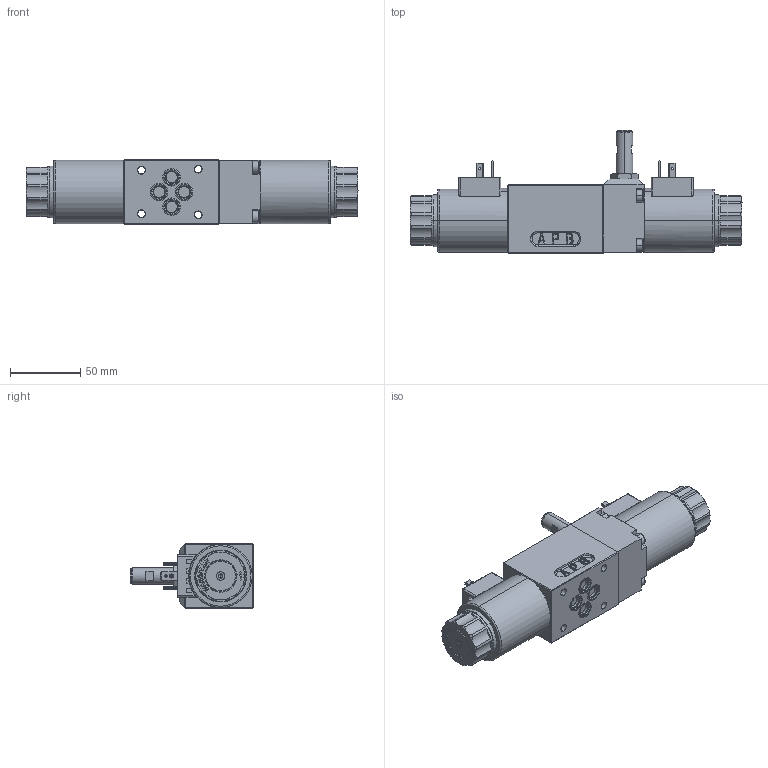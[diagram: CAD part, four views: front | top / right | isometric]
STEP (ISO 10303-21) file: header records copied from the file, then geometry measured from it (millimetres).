
FILE_DESCRIPTION (( 'STEP AP214' ), '1' );
FILE_NAME ('WDMFA06-4_2-Z482b,Z603b,Z680b.STEP', '2019-08-12T13:52:36', ( '' ), ( '' ), 'SwSTEP 2.0', 'SolidWorks 2018', '' );
FILE_SCHEMA (( 'AUTOMOTIVE_DESIGN' ));
Length unit declared in the file: millimetre
Products named in the file (1): WDMFA06-4_2-Z482b,Z603b,Z680b
Bounding box: 236.4 x 87.8 x 46 mm (x, y, z)
Volume: 427979.9 mm3; surface area: 61743.6 mm2
Topology: 13 solids, 20 shells, 1981 faces, 5305 edges, 3424 vertices
Faces by surface type: plane 1008, cylinder 686, cone 115, bspline 110, torus 40, sphere 22
Entity records: 87762 total; most frequent: CARTESIAN_POINT 16397, ORIENTED_EDGE 10540, DIRECTION 10210, EDGE_CURVE 5270, AXIS2_PLACEMENT_3D 3574, VERTEX_POINT 3424, VECTOR 3062, LINE 3062
